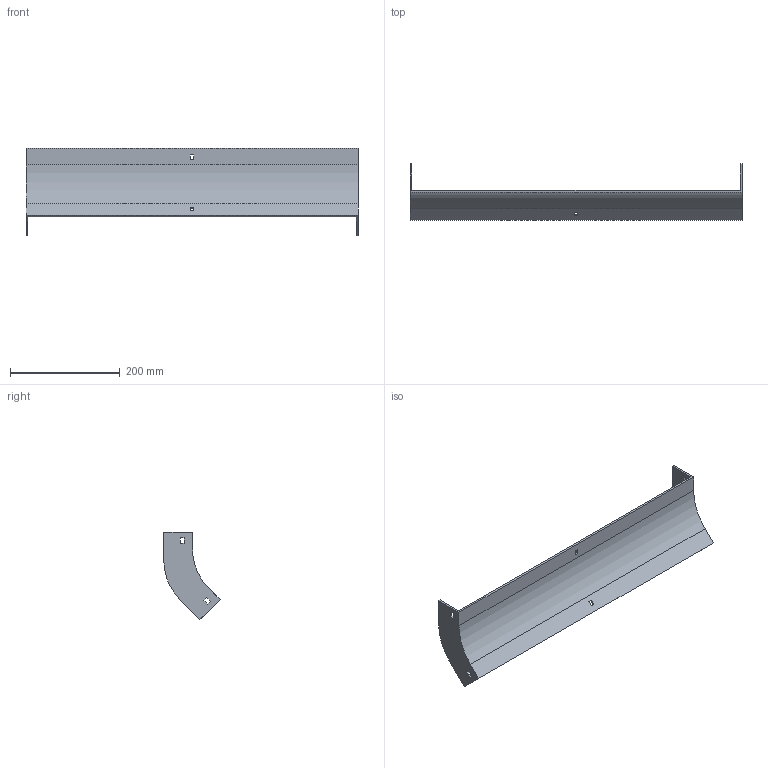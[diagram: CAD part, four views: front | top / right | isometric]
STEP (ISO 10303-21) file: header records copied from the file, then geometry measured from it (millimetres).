
FILE_DESCRIPTION (( 'STEP AP214' ), '1' );
FILE_NAME ('34F1B600.step', '2025-02-21T12:51:10', ( '' ), ( '' ), 'SwSTEP 2.0', 'SolidWorks 2023', '' );
FILE_SCHEMA (( 'AUTOMOTIVE_DESIGN' ));
Length unit declared in the file: millimetre
Products named in the file (1): 34F1B600
Bounding box: 604 x 102.5 x 158.69 mm (x, y, z)
Volume: 350796.3 mm3; surface area: 207316.8 mm2
Topology: 1 solids, 1 shells, 42 faces, 120 edges, 80 vertices
Faces by surface type: plane 38, cylinder 4
Entity records: 1399 total; most frequent: CARTESIAN_POINT 243, ORIENTED_EDGE 240, DIRECTION 214, EDGE_CURVE 120, VECTOR 112, LINE 112, VERTEX_POINT 80, EDGE_LOOP 54
